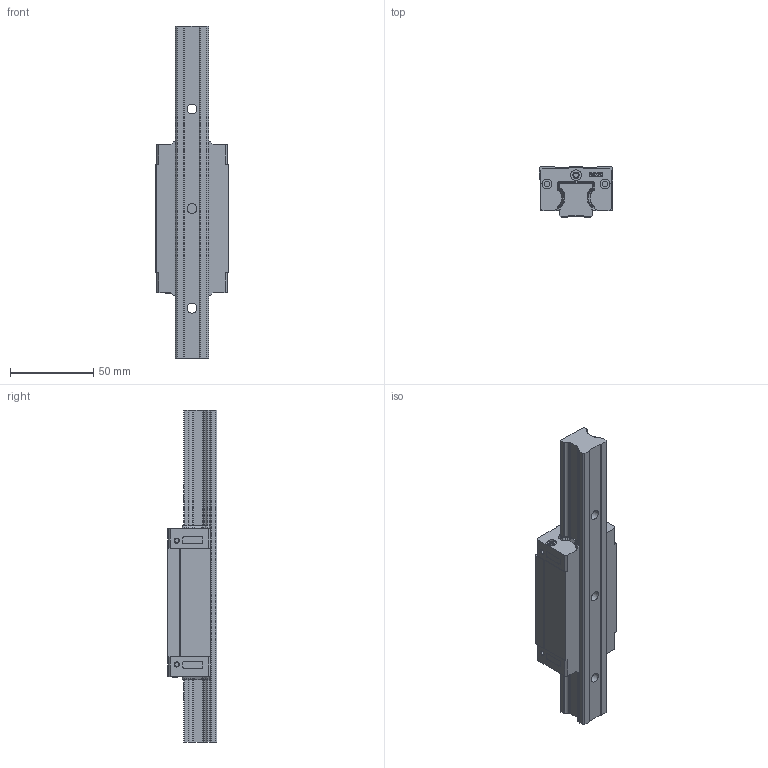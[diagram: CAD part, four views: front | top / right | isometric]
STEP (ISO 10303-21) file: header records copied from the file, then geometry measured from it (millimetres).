
FILE_DESCRIPTION(/* description */ (''),/* implementation_level */ '2;1');
FILE_NAME(/* name */ 'SGH20BL.stp',/* time_stamp */ '2021-05-27T16:16:01+08:00',/* author */ (''),/* organization */ (''),/* preprocessor_version */ 'ST-DEVELOPER v15',/* originating_system */ 'SIEMENS PLM Software NX 8.5',/* authorisation */ '');
FILE_SCHEMA (('CONFIG_CONTROL_DESIGN'));
Length unit declared in the file: millimetre
Products named in the file (1): SGH20BL
Bounding box: 44 x 30 x 200 mm (x, y, z)
Volume: 139745.7 mm3; surface area: 37843.1 mm2
Topology: 2 solids, 2 shells, 444 faces, 1208 edges, 811 vertices
Faces by surface type: plane 183, extrusion 114, cylinder 92, cone 43, bspline 12
Full cylindrical faces by diameter (mm): 2.5 x4, 2.8 x2, 3.3 x4, 3.5 x4, 3.8 x2, 4.2 x4, 6 x7, 6.5 x2, 9.5 x3
Entity records: 15620 total; most frequent: CARTESIAN_POINT 5007, ORIENTED_EDGE 2274, DIRECTION 1848, EDGE_CURVE 1137, VERTEX_POINT 783, VECTOR 692, LINE 578, AXIS2_PLACEMENT_3D 578
